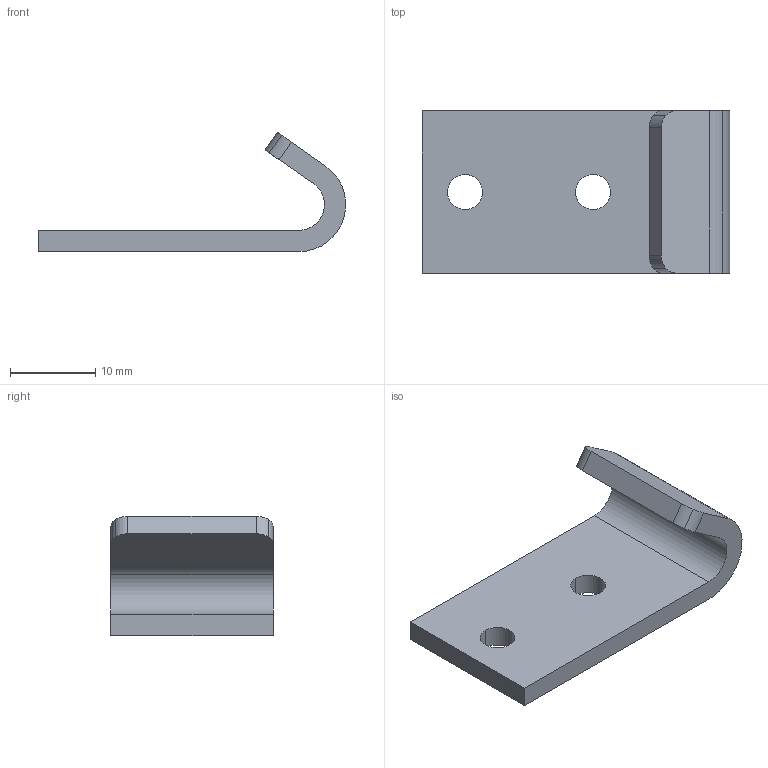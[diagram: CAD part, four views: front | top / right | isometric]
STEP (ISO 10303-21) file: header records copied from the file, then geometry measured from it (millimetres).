
FILE_DESCRIPTION((''),'2;1');
FILE_NAME('1015.__-5.stp','2012-06-06T16:58:44',(''),(''),'Mechanical Desktop 2006','Mechanical Desktop 2006',', , ');
FILE_SCHEMA(('CONFIG_CONTROL_DESIGN'));
Length unit declared in the file: millimetre
Products named in the file (2): 1015.__-5; TEIL1
Assembly tree (1 placements, depth 2):
  1015.__-5
    TEIL1
Bounding box: 35.99 x 19 x 13.97 mm (x, y, z)
Volume: 2217.5 mm3; surface area: 2169.9 mm2
Topology: 1 solids, 1 shells, 20 faces, 54 edges, 36 vertices
Faces by surface type: cylinder 12, plane 8
Entity records: 759 total; most frequent: DIRECTION 122, CARTESIAN_POINT 112, ORIENTED_EDGE 108, EDGE_CURVE 54, AXIS2_PLACEMENT_3D 46, VERTEX_POINT 36, VECTOR 30, LINE 30
